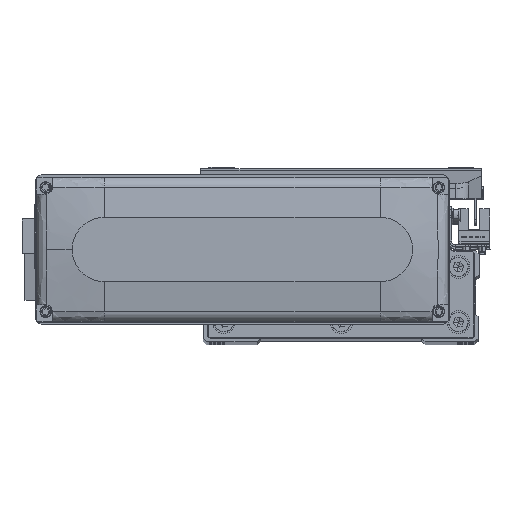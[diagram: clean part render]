
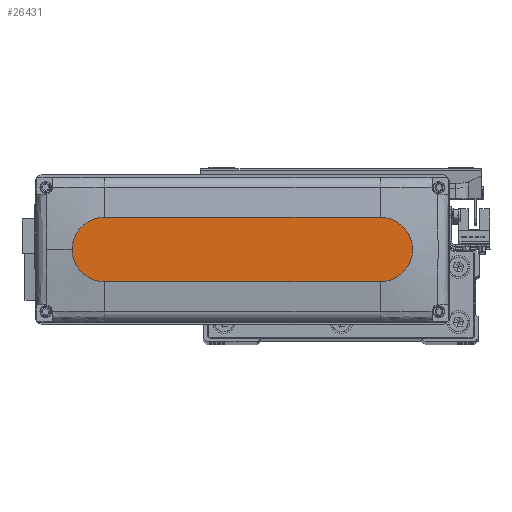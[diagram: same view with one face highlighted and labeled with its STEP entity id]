
A CAD part, top view. The second image highlights one B-rep face of the part: STEP entity #26431.
In plain terms, the highlighted planar face has unit normal (0, 0, 1).
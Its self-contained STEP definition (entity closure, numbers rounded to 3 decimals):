
#1379 = ORIENTED_EDGE ( 'NONE', *, *, #8226, .T. ) ;
#1418 = ORIENTED_EDGE ( 'NONE', *, *, #9431, .T. ) ;
#1698 = VERTEX_POINT ( 'NONE', #35070 ) ;
#1766 = CARTESIAN_POINT ( 'NONE',  ( 60., 0., 28.5 ) ) ;
#3568 = CARTESIAN_POINT ( 'NONE',  ( 74., 0., 28.5 ) ) ;
#5293 = VERTEX_POINT ( 'NONE', #11751 ) ;
#6408 = EDGE_CURVE ( 'NONE', #21885, #43248, #41366, .T. ) ;
#6867 = VERTEX_POINT ( 'NONE', #3568 ) ;
#8094 = EDGE_LOOP ( 'NONE', ( #25046, #1418, #30656, #1379, #19674 ) ) ;
#8226 = EDGE_CURVE ( 'NONE', #5293, #6867, #9046, .T. ) ;
#8362 = VECTOR ( 'NONE', #36712, 1000. ) ;
#8827 = CARTESIAN_POINT ( 'NONE',  ( -60., -14., 28.5 ) ) ;
#9046 = CIRCLE ( 'NONE', #27613, 14. ) ;
#9431 = EDGE_CURVE ( 'NONE', #43248, #1698, #18587, .T. ) ;
#10557 = CARTESIAN_POINT ( 'NONE',  ( -60., 14., 28.5 ) ) ;
#11751 = CARTESIAN_POINT ( 'NONE',  ( 60., -14., 28.5 ) ) ;
#12451 = DIRECTION ( 'NONE',  ( 0., 0., 1. ) ) ;
#12608 = AXIS2_PLACEMENT_3D ( 'NONE', #14122, #27385, #35045 ) ;
#13249 = CARTESIAN_POINT ( 'NONE',  ( -60., 14., 28.5 ) ) ;
#14122 = CARTESIAN_POINT ( 'NONE',  ( -60., 0., 28.5 ) ) ;
#16895 = DIRECTION ( 'NONE',  ( 1., 0., 0. ) ) ;
#18083 = CARTESIAN_POINT ( 'NONE',  ( 60., 0., 28.5 ) ) ;
#18587 = CIRCLE ( 'NONE', #12608, 14. ) ;
#19674 = ORIENTED_EDGE ( 'NONE', *, *, #37734, .T. ) ;
#21885 = VERTEX_POINT ( 'NONE', #23117 ) ;
#23117 = CARTESIAN_POINT ( 'NONE',  ( 60., 14., 28.5 ) ) ;
#25046 = ORIENTED_EDGE ( 'NONE', *, *, #6408, .T. ) ;
#26431 = ADVANCED_FACE ( 'NONE', ( #31722 ), #38476, .T. ) ;
#27103 = DIRECTION ( 'NONE',  ( 1., 0., 0. ) ) ;
#27385 = DIRECTION ( 'NONE',  ( 0., 0., 1. ) ) ;
#27613 = AXIS2_PLACEMENT_3D ( 'NONE', #18083, #39428, #32914 ) ;
#30264 = AXIS2_PLACEMENT_3D ( 'NONE', #1766, #12451, #27103 ) ;
#30656 = ORIENTED_EDGE ( 'NONE', *, *, #38402, .T. ) ;
#31722 = FACE_OUTER_BOUND ( 'NONE', #8094, .T. ) ;
#32914 = DIRECTION ( 'NONE',  ( 1., 0., 0. ) ) ;
#35045 = DIRECTION ( 'NONE',  ( 1., 0., 0. ) ) ;
#35070 = CARTESIAN_POINT ( 'NONE',  ( -60., -14., 28.5 ) ) ;
#36712 = DIRECTION ( 'NONE',  ( 1., 0., 0. ) ) ;
#36803 = AXIS2_PLACEMENT_3D ( 'NONE', #45453, #45901, #16895 ) ;
#37734 = EDGE_CURVE ( 'NONE', #6867, #21885, #45088, .T. ) ;
#38122 = DIRECTION ( 'NONE',  ( -1., 0., 0. ) ) ;
#38402 = EDGE_CURVE ( 'NONE', #1698, #5293, #43925, .T. ) ;
#38476 = PLANE ( 'NONE',  #36803 ) ;
#39428 = DIRECTION ( 'NONE',  ( 0., 0., 1. ) ) ;
#41366 = LINE ( 'NONE', #13249, #44201 ) ;
#43248 = VERTEX_POINT ( 'NONE', #10557 ) ;
#43925 = LINE ( 'NONE', #8827, #8362 ) ;
#44201 = VECTOR ( 'NONE', #38122, 1000. ) ;
#45088 = CIRCLE ( 'NONE', #30264, 14. ) ;
#45453 = CARTESIAN_POINT ( 'NONE',  ( 0., 0., 28.5 ) ) ;
#45901 = DIRECTION ( 'NONE',  ( 0., 0., 1. ) ) ;
